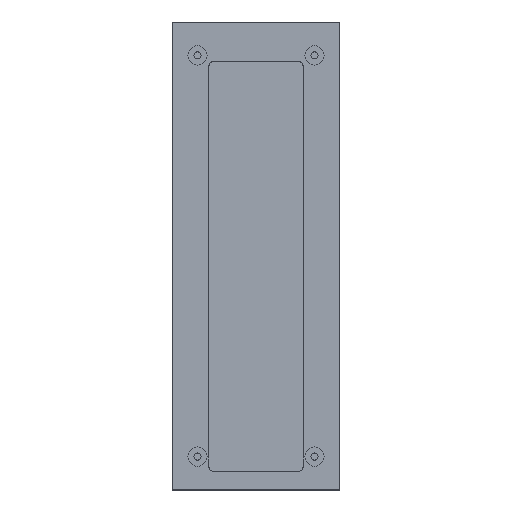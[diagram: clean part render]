
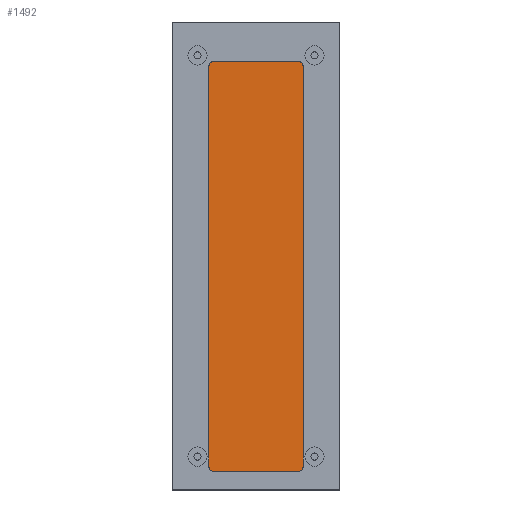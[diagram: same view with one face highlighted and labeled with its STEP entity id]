
A CAD part, top view. The second image highlights one B-rep face of the part: STEP entity #1492.
In plain terms, the highlighted planar face has unit normal (0, 0, 1).
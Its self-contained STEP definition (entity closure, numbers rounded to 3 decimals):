
#337 = PLANE('',#338);
#338 = AXIS2_PLACEMENT_3D('',#339,#340,#341);
#339 = CARTESIAN_POINT('',(-11.25,-34.5,-22.1));
#340 = DIRECTION('',(-1.,0.,0.));
#341 = DIRECTION('',(0.,1.,0.));
#369 = CYLINDRICAL_SURFACE('',#370,1.);
#370 = AXIS2_PLACEMENT_3D('',#371,#372,#373);
#371 = CARTESIAN_POINT('',(-10.25,61.5,-22.1));
#372 = DIRECTION('',(-0.,-0.,-1.));
#373 = DIRECTION('',(1.,0.,0.));
#396 = PLANE('',#397);
#397 = AXIS2_PLACEMENT_3D('',#398,#399,#400);
#398 = CARTESIAN_POINT('',(-10.25,62.5,-22.1));
#399 = DIRECTION('',(0.,1.,0.));
#400 = DIRECTION('',(1.,0.,0.));
#428 = CYLINDRICAL_SURFACE('',#429,1.);
#429 = AXIS2_PLACEMENT_3D('',#430,#431,#432);
#430 = CARTESIAN_POINT('',(10.25,61.5,-22.1));
#431 = DIRECTION('',(-0.,-0.,-1.));
#432 = DIRECTION('',(1.,0.,0.));
#455 = PLANE('',#456);
#456 = AXIS2_PLACEMENT_3D('',#457,#458,#459);
#457 = CARTESIAN_POINT('',(11.25,-34.5,-22.1));
#458 = DIRECTION('',(-1.,0.,0.));
#459 = DIRECTION('',(0.,1.,0.));
#487 = CYLINDRICAL_SURFACE('',#488,1.);
#488 = AXIS2_PLACEMENT_3D('',#489,#490,#491);
#489 = CARTESIAN_POINT('',(10.25,-34.5,-22.1));
#490 = DIRECTION('',(-0.,-0.,-1.));
#491 = DIRECTION('',(1.,0.,0.));
#514 = PLANE('',#515);
#515 = AXIS2_PLACEMENT_3D('',#516,#517,#518);
#516 = CARTESIAN_POINT('',(-10.25,-35.5,-22.1));
#517 = DIRECTION('',(0.,1.,0.));
#518 = DIRECTION('',(1.,0.,0.));
#544 = CYLINDRICAL_SURFACE('',#545,1.);
#545 = AXIS2_PLACEMENT_3D('',#546,#547,#548);
#546 = CARTESIAN_POINT('',(-10.25,-34.5,-22.1));
#547 = DIRECTION('',(-0.,-0.,-1.));
#548 = DIRECTION('',(1.,0.,0.));
#959 = EDGE_CURVE('',#960,#962,#964,.T.);
#960 = VERTEX_POINT('',#961);
#961 = CARTESIAN_POINT('',(-11.25,-34.5,-22.1));
#962 = VERTEX_POINT('',#963);
#963 = CARTESIAN_POINT('',(-11.25,61.5,-22.1));
#964 = SURFACE_CURVE('',#965,(#969,#976),.PCURVE_S1.);
#965 = LINE('',#966,#967);
#966 = CARTESIAN_POINT('',(-11.25,13.5,-22.1));
#967 = VECTOR('',#968,1.);
#968 = DIRECTION('',(0.,1.,0.));
#969 = PCURVE('',#337,#970);
#970 = DEFINITIONAL_REPRESENTATION('',(#971),#975);
#971 = LINE('',#972,#973);
#972 = CARTESIAN_POINT('',(48.,0.));
#973 = VECTOR('',#974,1.);
#974 = DIRECTION('',(1.,0.));
#975 = ( GEOMETRIC_REPRESENTATION_CONTEXT(2) 
PARAMETRIC_REPRESENTATION_CONTEXT() REPRESENTATION_CONTEXT('2D SPACE',''
  ) );
#976 = PCURVE('',#977,#982);
#977 = PLANE('',#978);
#978 = AXIS2_PLACEMENT_3D('',#979,#980,#981);
#979 = CARTESIAN_POINT('',(0.,13.5,-22.1));
#980 = DIRECTION('',(0.,0.,1.));
#981 = DIRECTION('',(1.,0.,-0.));
#982 = DEFINITIONAL_REPRESENTATION('',(#983),#987);
#983 = LINE('',#984,#985);
#984 = CARTESIAN_POINT('',(-11.25,0.));
#985 = VECTOR('',#986,1.);
#986 = DIRECTION('',(0.,1.));
#987 = ( GEOMETRIC_REPRESENTATION_CONTEXT(2) 
PARAMETRIC_REPRESENTATION_CONTEXT() REPRESENTATION_CONTEXT('2D SPACE',''
  ) );
#1036 = EDGE_CURVE('',#960,#1037,#1039,.T.);
#1037 = VERTEX_POINT('',#1038);
#1038 = CARTESIAN_POINT('',(-10.25,-35.5,-22.1));
#1039 = SURFACE_CURVE('',#1040,(#1045,#1052),.PCURVE_S1.);
#1040 = CIRCLE('',#1041,1.);
#1041 = AXIS2_PLACEMENT_3D('',#1042,#1043,#1044);
#1042 = CARTESIAN_POINT('',(-10.25,-34.5,-22.1));
#1043 = DIRECTION('',(0.,0.,1.));
#1044 = DIRECTION('',(1.,0.,-0.));
#1045 = PCURVE('',#544,#1046);
#1046 = DEFINITIONAL_REPRESENTATION('',(#1047),#1051);
#1047 = LINE('',#1048,#1049);
#1048 = CARTESIAN_POINT('',(6.283,0.));
#1049 = VECTOR('',#1050,1.);
#1050 = DIRECTION('',(-1.,0.));
#1051 = ( GEOMETRIC_REPRESENTATION_CONTEXT(2) 
PARAMETRIC_REPRESENTATION_CONTEXT() REPRESENTATION_CONTEXT('2D SPACE',''
  ) );
#1052 = PCURVE('',#977,#1053);
#1053 = DEFINITIONAL_REPRESENTATION('',(#1054),#1058);
#1054 = CIRCLE('',#1055,1.);
#1055 = AXIS2_PLACEMENT_2D('',#1056,#1057);
#1056 = CARTESIAN_POINT('',(-10.25,-48.));
#1057 = DIRECTION('',(1.,0.));
#1058 = ( GEOMETRIC_REPRESENTATION_CONTEXT(2) 
PARAMETRIC_REPRESENTATION_CONTEXT() REPRESENTATION_CONTEXT('2D SPACE',''
  ) );
#1085 = EDGE_CURVE('',#1037,#1086,#1088,.T.);
#1086 = VERTEX_POINT('',#1087);
#1087 = CARTESIAN_POINT('',(10.25,-35.5,-22.1));
#1088 = SURFACE_CURVE('',#1089,(#1093,#1100),.PCURVE_S1.);
#1089 = LINE('',#1090,#1091);
#1090 = CARTESIAN_POINT('',(0.,-35.5,-22.1));
#1091 = VECTOR('',#1092,1.);
#1092 = DIRECTION('',(1.,0.,0.));
#1093 = PCURVE('',#514,#1094);
#1094 = DEFINITIONAL_REPRESENTATION('',(#1095),#1099);
#1095 = LINE('',#1096,#1097);
#1096 = CARTESIAN_POINT('',(10.25,0.));
#1097 = VECTOR('',#1098,1.);
#1098 = DIRECTION('',(1.,0.));
#1099 = ( GEOMETRIC_REPRESENTATION_CONTEXT(2) 
PARAMETRIC_REPRESENTATION_CONTEXT() REPRESENTATION_CONTEXT('2D SPACE',''
  ) );
#1100 = PCURVE('',#977,#1101);
#1101 = DEFINITIONAL_REPRESENTATION('',(#1102),#1106);
#1102 = LINE('',#1103,#1104);
#1103 = CARTESIAN_POINT('',(0.,-49.));
#1104 = VECTOR('',#1105,1.);
#1105 = DIRECTION('',(1.,0.));
#1106 = ( GEOMETRIC_REPRESENTATION_CONTEXT(2) 
PARAMETRIC_REPRESENTATION_CONTEXT() REPRESENTATION_CONTEXT('2D SPACE',''
  ) );
#1135 = EDGE_CURVE('',#1086,#1136,#1138,.T.);
#1136 = VERTEX_POINT('',#1137);
#1137 = CARTESIAN_POINT('',(11.25,-34.5,-22.1));
#1138 = SURFACE_CURVE('',#1139,(#1144,#1151),.PCURVE_S1.);
#1139 = CIRCLE('',#1140,1.);
#1140 = AXIS2_PLACEMENT_3D('',#1141,#1142,#1143);
#1141 = CARTESIAN_POINT('',(10.25,-34.5,-22.1));
#1142 = DIRECTION('',(0.,0.,1.));
#1143 = DIRECTION('',(1.,0.,-0.));
#1144 = PCURVE('',#487,#1145);
#1145 = DEFINITIONAL_REPRESENTATION('',(#1146),#1150);
#1146 = LINE('',#1147,#1148);
#1147 = CARTESIAN_POINT('',(6.283,0.));
#1148 = VECTOR('',#1149,1.);
#1149 = DIRECTION('',(-1.,0.));
#1150 = ( GEOMETRIC_REPRESENTATION_CONTEXT(2) 
PARAMETRIC_REPRESENTATION_CONTEXT() REPRESENTATION_CONTEXT('2D SPACE',''
  ) );
#1151 = PCURVE('',#977,#1152);
#1152 = DEFINITIONAL_REPRESENTATION('',(#1153),#1157);
#1153 = CIRCLE('',#1154,1.);
#1154 = AXIS2_PLACEMENT_2D('',#1155,#1156);
#1155 = CARTESIAN_POINT('',(10.25,-48.));
#1156 = DIRECTION('',(1.,0.));
#1157 = ( GEOMETRIC_REPRESENTATION_CONTEXT(2) 
PARAMETRIC_REPRESENTATION_CONTEXT() REPRESENTATION_CONTEXT('2D SPACE',''
  ) );
#1184 = EDGE_CURVE('',#1136,#1185,#1187,.T.);
#1185 = VERTEX_POINT('',#1186);
#1186 = CARTESIAN_POINT('',(11.25,61.5,-22.1));
#1187 = SURFACE_CURVE('',#1188,(#1192,#1199),.PCURVE_S1.);
#1188 = LINE('',#1189,#1190);
#1189 = CARTESIAN_POINT('',(11.25,13.5,-22.1));
#1190 = VECTOR('',#1191,1.);
#1191 = DIRECTION('',(0.,1.,0.));
#1192 = PCURVE('',#455,#1193);
#1193 = DEFINITIONAL_REPRESENTATION('',(#1194),#1198);
#1194 = LINE('',#1195,#1196);
#1195 = CARTESIAN_POINT('',(48.,0.));
#1196 = VECTOR('',#1197,1.);
#1197 = DIRECTION('',(1.,0.));
#1198 = ( GEOMETRIC_REPRESENTATION_CONTEXT(2) 
PARAMETRIC_REPRESENTATION_CONTEXT() REPRESENTATION_CONTEXT('2D SPACE',''
  ) );
#1199 = PCURVE('',#977,#1200);
#1200 = DEFINITIONAL_REPRESENTATION('',(#1201),#1205);
#1201 = LINE('',#1202,#1203);
#1202 = CARTESIAN_POINT('',(11.25,0.));
#1203 = VECTOR('',#1204,1.);
#1204 = DIRECTION('',(0.,1.));
#1205 = ( GEOMETRIC_REPRESENTATION_CONTEXT(2) 
PARAMETRIC_REPRESENTATION_CONTEXT() REPRESENTATION_CONTEXT('2D SPACE',''
  ) );
#1234 = EDGE_CURVE('',#1185,#1235,#1237,.T.);
#1235 = VERTEX_POINT('',#1236);
#1236 = CARTESIAN_POINT('',(10.25,62.5,-22.1));
#1237 = SURFACE_CURVE('',#1238,(#1243,#1250),.PCURVE_S1.);
#1238 = CIRCLE('',#1239,1.);
#1239 = AXIS2_PLACEMENT_3D('',#1240,#1241,#1242);
#1240 = CARTESIAN_POINT('',(10.25,61.5,-22.1));
#1241 = DIRECTION('',(0.,0.,1.));
#1242 = DIRECTION('',(1.,0.,-0.));
#1243 = PCURVE('',#428,#1244);
#1244 = DEFINITIONAL_REPRESENTATION('',(#1245),#1249);
#1245 = LINE('',#1246,#1247);
#1246 = CARTESIAN_POINT('',(6.283,0.));
#1247 = VECTOR('',#1248,1.);
#1248 = DIRECTION('',(-1.,0.));
#1249 = ( GEOMETRIC_REPRESENTATION_CONTEXT(2) 
PARAMETRIC_REPRESENTATION_CONTEXT() REPRESENTATION_CONTEXT('2D SPACE',''
  ) );
#1250 = PCURVE('',#977,#1251);
#1251 = DEFINITIONAL_REPRESENTATION('',(#1252),#1256);
#1252 = CIRCLE('',#1253,1.);
#1253 = AXIS2_PLACEMENT_2D('',#1254,#1255);
#1254 = CARTESIAN_POINT('',(10.25,48.));
#1255 = DIRECTION('',(1.,0.));
#1256 = ( GEOMETRIC_REPRESENTATION_CONTEXT(2) 
PARAMETRIC_REPRESENTATION_CONTEXT() REPRESENTATION_CONTEXT('2D SPACE',''
  ) );
#1283 = EDGE_CURVE('',#1284,#1235,#1286,.T.);
#1284 = VERTEX_POINT('',#1285);
#1285 = CARTESIAN_POINT('',(-10.25,62.5,-22.1));
#1286 = SURFACE_CURVE('',#1287,(#1291,#1298),.PCURVE_S1.);
#1287 = LINE('',#1288,#1289);
#1288 = CARTESIAN_POINT('',(0.,62.5,-22.1));
#1289 = VECTOR('',#1290,1.);
#1290 = DIRECTION('',(1.,0.,0.));
#1291 = PCURVE('',#396,#1292);
#1292 = DEFINITIONAL_REPRESENTATION('',(#1293),#1297);
#1293 = LINE('',#1294,#1295);
#1294 = CARTESIAN_POINT('',(10.25,0.));
#1295 = VECTOR('',#1296,1.);
#1296 = DIRECTION('',(1.,0.));
#1297 = ( GEOMETRIC_REPRESENTATION_CONTEXT(2) 
PARAMETRIC_REPRESENTATION_CONTEXT() REPRESENTATION_CONTEXT('2D SPACE',''
  ) );
#1298 = PCURVE('',#977,#1299);
#1299 = DEFINITIONAL_REPRESENTATION('',(#1300),#1304);
#1300 = LINE('',#1301,#1302);
#1301 = CARTESIAN_POINT('',(0.,49.));
#1302 = VECTOR('',#1303,1.);
#1303 = DIRECTION('',(1.,0.));
#1304 = ( GEOMETRIC_REPRESENTATION_CONTEXT(2) 
PARAMETRIC_REPRESENTATION_CONTEXT() REPRESENTATION_CONTEXT('2D SPACE',''
  ) );
#1333 = EDGE_CURVE('',#1284,#962,#1334,.T.);
#1334 = SURFACE_CURVE('',#1335,(#1340,#1347),.PCURVE_S1.);
#1335 = CIRCLE('',#1336,1.);
#1336 = AXIS2_PLACEMENT_3D('',#1337,#1338,#1339);
#1337 = CARTESIAN_POINT('',(-10.25,61.5,-22.1));
#1338 = DIRECTION('',(0.,0.,1.));
#1339 = DIRECTION('',(1.,0.,-0.));
#1340 = PCURVE('',#369,#1341);
#1341 = DEFINITIONAL_REPRESENTATION('',(#1342),#1346);
#1342 = LINE('',#1343,#1344);
#1343 = CARTESIAN_POINT('',(6.283,0.));
#1344 = VECTOR('',#1345,1.);
#1345 = DIRECTION('',(-1.,0.));
#1346 = ( GEOMETRIC_REPRESENTATION_CONTEXT(2) 
PARAMETRIC_REPRESENTATION_CONTEXT() REPRESENTATION_CONTEXT('2D SPACE',''
  ) );
#1347 = PCURVE('',#977,#1348);
#1348 = DEFINITIONAL_REPRESENTATION('',(#1349),#1353);
#1349 = CIRCLE('',#1350,1.);
#1350 = AXIS2_PLACEMENT_2D('',#1351,#1352);
#1351 = CARTESIAN_POINT('',(-10.25,48.));
#1352 = DIRECTION('',(1.,0.));
#1353 = ( GEOMETRIC_REPRESENTATION_CONTEXT(2) 
PARAMETRIC_REPRESENTATION_CONTEXT() REPRESENTATION_CONTEXT('2D SPACE',''
  ) );
#1492 = ADVANCED_FACE('',(#1493),#977,.T.);
#1493 = FACE_BOUND('',#1494,.T.);
#1494 = EDGE_LOOP('',(#1495,#1496,#1497,#1498,#1499,#1500,#1501,#1502));
#1495 = ORIENTED_EDGE('',*,*,#959,.F.);
#1496 = ORIENTED_EDGE('',*,*,#1036,.T.);
#1497 = ORIENTED_EDGE('',*,*,#1085,.T.);
#1498 = ORIENTED_EDGE('',*,*,#1135,.T.);
#1499 = ORIENTED_EDGE('',*,*,#1184,.T.);
#1500 = ORIENTED_EDGE('',*,*,#1234,.T.);
#1501 = ORIENTED_EDGE('',*,*,#1283,.F.);
#1502 = ORIENTED_EDGE('',*,*,#1333,.T.);
